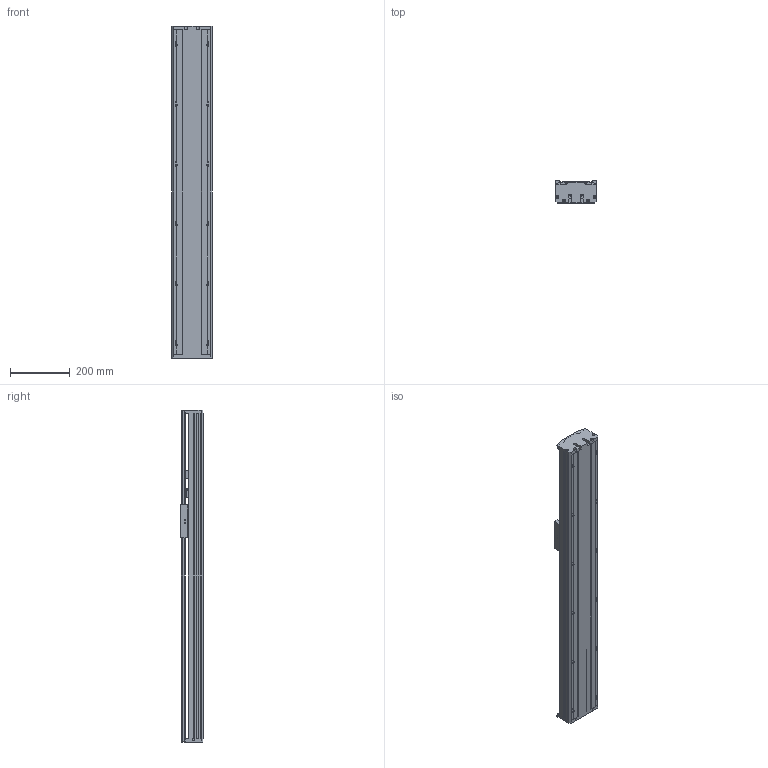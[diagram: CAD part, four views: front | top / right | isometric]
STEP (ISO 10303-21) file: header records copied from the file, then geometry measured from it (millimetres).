
FILE_DESCRIPTION(/* description */ (''),/* implementation_level */ '2;1');
FILE_NAME(/* name */ 'TKA136-FI-650_asm1.stp',/* time_stamp */ '2016-05-07T10:31:38+08:00',/* author */ (''),/* organization */ (''),/* preprocessor_version */ 'ST-DEVELOPER v15',/* originating_system */ 'SIEMENS PLM Software NX 8.5',/* authorisation */ '');
FILE_SCHEMA (('AUTOMOTIVE_DESIGN { 1 0 10303 214 3 1 1 1 }'));
Length unit declared in the file: millimetre
Products named in the file (3): 100-02; 100-01; TKA136-FI-650_asm1
Assembly tree (2 placements, depth 2):
  TKA136-FI-650_asm1
    100-01
    100-02
Bounding box: 136 x 75 x 1109 mm (x, y, z)
Volume: 3444293.1 mm3; surface area: 1292018.6 mm2
Topology: 2 solids, 12 shells, 955 faces, 2750 edges, 1803 vertices
Faces by surface type: cylinder 469, plane 436, cone 50
Full cylindrical faces by diameter (mm): 2.5 x4, 3.3 x8, 4.2 x8, 4.5 x20, 5 x10, 5.5 x14, 8 x20, 10 x9, 10.5 x6, 11.6 x1, 12 x8, 15 x3, 16 x5, 24 x3, 26 x1, 28 x1, 46 x1
Entity records: 33341 total; most frequent: CARTESIAN_POINT 8697, ORIENTED_EDGE 5056, DIRECTION 5042, EDGE_CURVE 2528, AXIS2_PLACEMENT_3D 1872, VERTEX_POINT 1755, LINE 1298, VECTOR 1298
